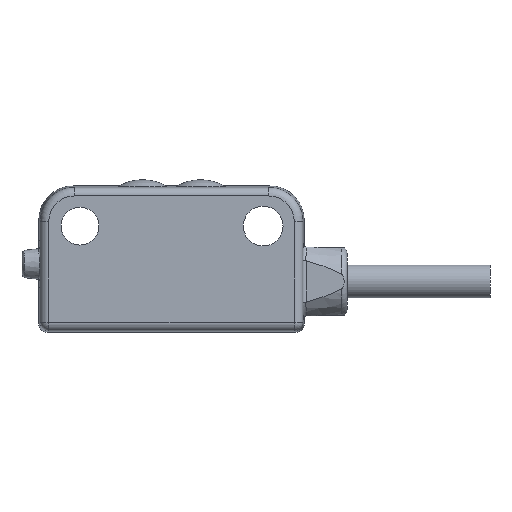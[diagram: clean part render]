
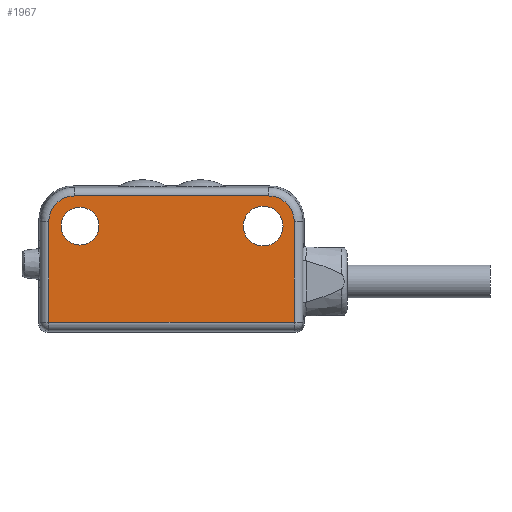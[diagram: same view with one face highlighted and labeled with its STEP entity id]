
A CAD part, left-side view. The second image highlights one B-rep face of the part: STEP entity #1967.
In plain terms, the highlighted planar face has unit normal (-1, 0, 0).
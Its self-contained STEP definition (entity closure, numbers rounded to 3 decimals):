
#98=DIRECTION('',(0.,0.,1.));
#99=VECTOR('',#98,8.245);
#100=CARTESIAN_POINT('',(-0.5,20.422,-10.672));
#101=LINE('',#100,#99);
#102=CARTESIAN_POINT('',(-0.5,18.323,
-2.427));
#103=DIRECTION('',(1.,0.,0.));
#104=DIRECTION('',(0.,1.,0.));
#105=AXIS2_PLACEMENT_3D('',#102,#103,#104);
#107=CARTESIAN_POINT('',(-0.5,2.427,
-2.427));
#108=DIRECTION('',(1.,0.,0.));
#109=DIRECTION('',(0.,0.,1.));
#110=AXIS2_PLACEMENT_3D('',#107,#108,#109);
#112=CARTESIAN_POINT('',(-0.5,17.87,-2.8));
#113=DIRECTION('',(-1.,0.,0.));
#114=DIRECTION('',(0.,-1.,0.));
#115=AXIS2_PLACEMENT_3D('',#112,#113,#114);
#117=CARTESIAN_POINT('',(-0.5,17.87,-2.8));
#118=DIRECTION('',(-1.,0.,0.));
#119=DIRECTION('',(0.,1.,0.));
#120=AXIS2_PLACEMENT_3D('',#117,#118,#119);
#122=CARTESIAN_POINT('',(-0.5,2.87,-2.8));
#123=DIRECTION('',(-1.,0.,0.));
#124=DIRECTION('',(0.,-1.,0.));
#125=AXIS2_PLACEMENT_3D('',#122,#123,#124);
#127=CARTESIAN_POINT('',(-0.5,2.87,-2.8));
#128=DIRECTION('',(-1.,0.,0.));
#129=DIRECTION('',(0.,1.,0.));
#130=AXIS2_PLACEMENT_3D('',#127,#128,#129);
#132=DIRECTION('',(0.,-1.,0.));
#133=VECTOR('',#132,20.095);
#134=CARTESIAN_POINT('',(-0.5,20.422,-10.672));
#135=LINE('',#134,#133);
#151=DIRECTION('',(0.,0.,1.));
#152=VECTOR('',#151,8.245);
#153=CARTESIAN_POINT('',(-0.5,0.328,-10.672));
#154=LINE('',#153,#152);
#160=DIRECTION('',(0.,1.,0.));
#161=VECTOR('',#160,15.896);
#162=CARTESIAN_POINT('',(-0.5,2.427,
-0.328));
#163=LINE('',#162,#161);
#1539=CARTESIAN_POINT('',(-0.5,20.422,-10.672));
#1541=VERTEX_POINT('',#1539);
#1544=CARTESIAN_POINT('',(-0.5,20.422,
-2.427));
#1546=VERTEX_POINT('',#1544);
#1552=CARTESIAN_POINT('',(-0.5,18.323,-0.328));
#1553=VERTEX_POINT('',#1552);
#1554=CARTESIAN_POINT('',(-0.5,0.328,-10.672));
#1555=VERTEX_POINT('',#1554);
#1556=CARTESIAN_POINT('',(-0.5,2.427,
-0.328));
#1557=VERTEX_POINT('',#1556);
#1558=CARTESIAN_POINT('',(-0.5,0.328,
-2.427));
#1559=VERTEX_POINT('',#1558);
#1560=CARTESIAN_POINT('',(-0.5,16.32,-2.8));
#1561=CARTESIAN_POINT('',(-0.5,19.42,-2.8));
#1562=VERTEX_POINT('',#1560);
#1563=VERTEX_POINT('',#1561);
#1564=CARTESIAN_POINT('',(-0.5,1.245,-2.8));
#1565=CARTESIAN_POINT('',(-0.5,4.495,-2.8));
#1566=VERTEX_POINT('',#1564);
#1567=VERTEX_POINT('',#1565);
#1938=CARTESIAN_POINT('',(-0.5,10.375,-5.5));
#1939=DIRECTION('',(1.,0.,0.));
#1940=DIRECTION('',(0.,1.,0.));
#1941=AXIS2_PLACEMENT_3D('',#1938,#1939,#1940);
#1942=PLANE('',#1941);
#1944=ORIENTED_EDGE('',*,*,#1943,.F.);
#1945=ORIENTED_EDGE('',*,*,#1865,.T.);
#1946=ORIENTED_EDGE('',*,*,#1929,.T.);
#1948=ORIENTED_EDGE('',*,*,#1947,.F.);
#1950=ORIENTED_EDGE('',*,*,#1949,.T.);
#1952=ORIENTED_EDGE('',*,*,#1951,.F.);
#1953=EDGE_LOOP('',(#1944,#1945,#1946,#1948,#1950,#1952));
#1954=FACE_OUTER_BOUND('',#1953,.F.);
#1956=ORIENTED_EDGE('',*,*,#1955,.T.);
#1958=ORIENTED_EDGE('',*,*,#1957,.T.);
#1959=EDGE_LOOP('',(#1956,#1958));
#1960=FACE_BOUND('',#1959,.F.);
#1962=ORIENTED_EDGE('',*,*,#1961,.T.);
#1964=ORIENTED_EDGE('',*,*,#1963,.T.);
#1965=EDGE_LOOP('',(#1962,#1964));
#1966=FACE_BOUND('',#1965,.F.);
#1967=ADVANCED_FACE('',(#1954,#1960,#1966),#1942,.F.);
#106=CIRCLE('',#105,2.1);
#111=CIRCLE('',#110,2.1);
#116=CIRCLE('',#115,1.55);
#121=CIRCLE('',#120,1.55);
#126=CIRCLE('',#125,1.625);
#131=CIRCLE('',#130,1.625);
#1865=EDGE_CURVE('',#1541,#1546,#101,.T.);
#1929=EDGE_CURVE('',#1546,#1553,#106,.T.);
#1943=EDGE_CURVE('',#1541,#1555,#135,.T.);
#1947=EDGE_CURVE('',#1557,#1553,#163,.T.);
#1949=EDGE_CURVE('',#1557,#1559,#111,.T.);
#1951=EDGE_CURVE('',#1555,#1559,#154,.T.);
#1955=EDGE_CURVE('',#1562,#1563,#116,.T.);
#1957=EDGE_CURVE('',#1563,#1562,#121,.T.);
#1961=EDGE_CURVE('',#1566,#1567,#126,.T.);
#1963=EDGE_CURVE('',#1567,#1566,#131,.T.);
